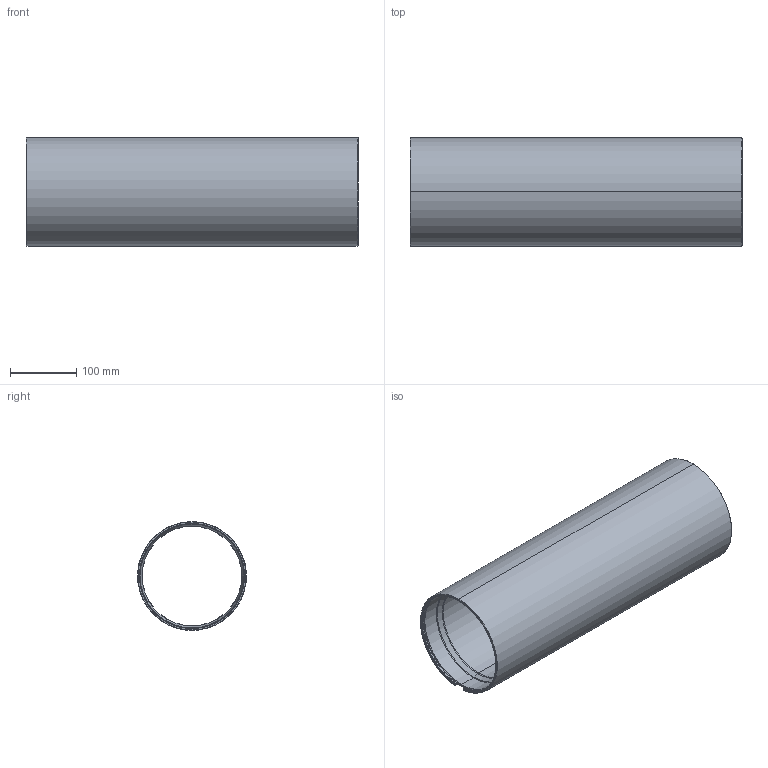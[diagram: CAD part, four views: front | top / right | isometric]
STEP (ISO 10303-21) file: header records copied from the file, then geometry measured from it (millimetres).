
FILE_DESCRIPTION (( 'STEP AP203' ), '1' );
FILE_NAME ('BR-106281-500_RevX01.step', '2026-01-13T23:37:46', ( '' ), ( '' ), 'SwSTEP 2.0', 'SolidWorks 2024', '' );
FILE_SCHEMA (( 'CONFIG_CONTROL_DESIGN' ));
Length unit declared in the file: millimetre
Products named in the file (1): BR-106281-500
Bounding box: 500 x 163.65 x 163.9 mm (x, y, z)
Volume: 1587449.9 mm3; surface area: 498141.7 mm2
Topology: 1 solids, 1 shells, 90 faces, 232 edges, 142 vertices
Faces by surface type: bspline 24, torus 20, cylinder 20, cone 14, plane 12
Entity records: 6073 total; most frequent: CARTESIAN_POINT 4061, ORIENTED_EDGE 464, DIRECTION 326, EDGE_CURVE 232, AXIS2_PLACEMENT_3D 143, VERTEX_POINT 142, B_SPLINE_CURVE_WITH_KNOTS 112, ADVANCED_FACE 90
